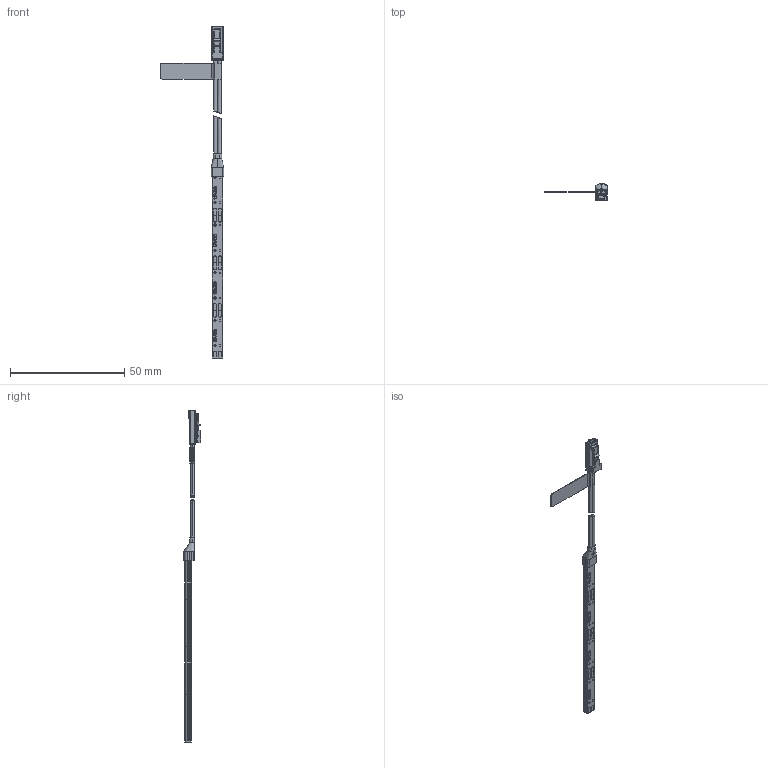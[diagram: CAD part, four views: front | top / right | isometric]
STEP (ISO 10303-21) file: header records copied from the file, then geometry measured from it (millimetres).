
FILE_DESCRIPTION (( 'STEP AP203' ), '1' );
FILE_NAME ('Versa_Linear_mini_24.STEP', '2024-11-27T12:13:05', ( '' ), ( '' ), 'SwSTEP 2.0', 'SolidWorks 2023', '' );
FILE_SCHEMA (( 'CONFIG_CONTROL_DESIGN' ));
Length unit declared in the file: millimetre
Products named in the file (5): VersaLinea_mini_Mini_Stecker_LED_sw__mit Schnitt_50mm; 5604001; Versa_Linear_mini_24; Leitungsaufkleber_blanko_AN_schmal_weiß; 5604001_Ende
Assembly tree (6 placements, depth 2):
  Versa_Linear_mini_24
    5604001  x3
    5604001_Ende
    Leitungsaufkleber_blanko_AN_schmal_weiß
    VersaLinea_mini_Mini_Stecker_LED_sw__mit Schnitt_50mm
Bounding box: 27.77 x 7.44 x 145.36 mm (x, y, z)
Volume: 1606.8 mm3; surface area: 5019.2 mm2
Topology: 21 solids, 21 shells, 1234 faces, 3156 edges, 2025 vertices
Faces by surface type: plane 735, cylinder 311, bspline 133, sphere 29, torus 26
Entity records: 27349 total; most frequent: CARTESIAN_POINT 8823, ORIENTED_EDGE 3792, DIRECTION 3576, EDGE_CURVE 1896, LINE 1280, VECTOR 1280, VERTEX_POINT 1211, AXIS2_PLACEMENT_3D 1148
